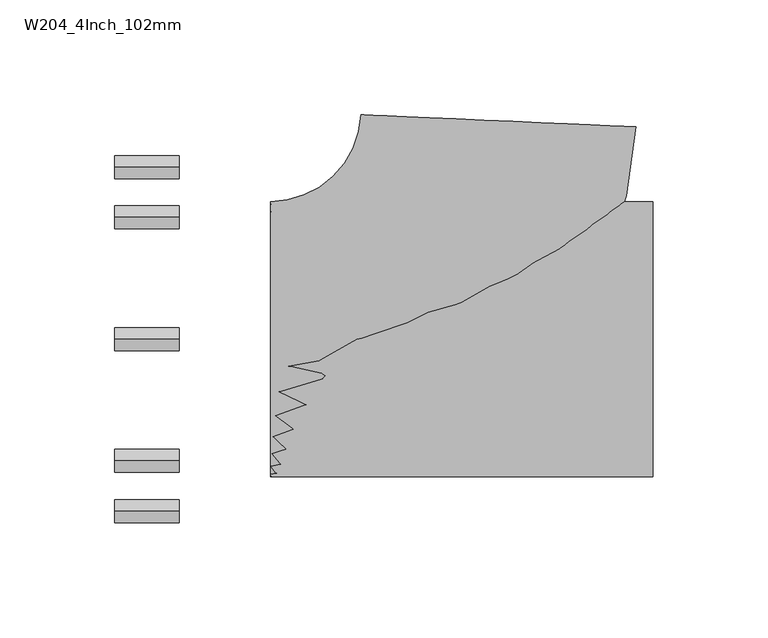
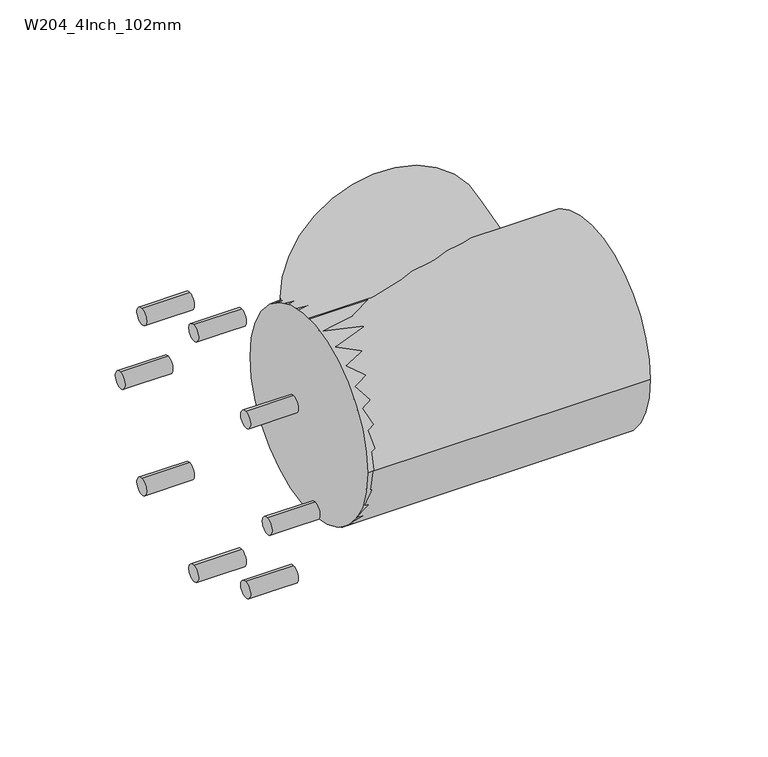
"""IFC4 building model written with IfcOpenShell, lengths in millimetres: pipe fitting geometry, Durapipe_PipeFitting_VulcatheneMechanical_92.5EqualSweepTee_W20 : W204_4Inch_102mm."""

from ifc_helpers import new_model, si_unit, point, frame, frame_2d, origin, place, context, project, spatial, circle_curve, ellipse_curve, trimmed, segment, composite_curve, outline, extrude, source, transform, mapped, element, save
from ifc_brep_helpers import plane_surface, cylinder_surface, revolved_surface, advanced_brep


def w204_4inch_102mm_a8dd6bf8(model_context):
    return source(origin(), model_context, "Body", "SolidModel", [
        extrude(outline(composite_curve([segment(trimmed(circle_curve(frame_2d((75.0, 0.0)), 5.0), [point((75.0, -5.0))], [point((75.0, 5.0))], False, "CARTESIAN"), True, "CONTINUOUS"), segment(trimmed(circle_curve(frame_2d((75.0, 0.0)), 5.0), [point((75.0, 5.0))], [point((75.0, -5.0))], False, "CARTESIAN"), True, "CONTINUOUS")], self_intersect=False)), frame((-163.1505284, 0.0, 0.0), z_axis=(1.0, 0.0, 0.0), x_axis=(0.0, 1.0, 0.0)), (0.0, 0.0, 1.0), 28.2),
        extrude(outline(composite_curve([segment(trimmed(circle_curve(frame_2d((53.0330086, 53.0330086)), 5.0), [point((53.0330086, 48.0330086))], [point((53.0330086, 58.0330086))], False, "CARTESIAN"), True, "CONTINUOUS"), segment(trimmed(circle_curve(frame_2d((53.0330086, 53.0330086)), 5.0), [point((53.0330086, 58.0330086))], [point((53.0330086, 48.0330086))], False, "CARTESIAN"), True, "CONTINUOUS")], self_intersect=False)), frame((-163.1505284, 0.0, 0.0), z_axis=(1.0, 0.0, 0.0), x_axis=(0.0, 1.0, 0.0)), (0.0, 0.0, 1.0), 28.2),
        extrude(outline(composite_curve([segment(trimmed(circle_curve(frame_2d((0.0, 75.0)), 5.0), [point((0.0, 70.0))], [point((0.0, 80.0))], False, "CARTESIAN"), True, "CONTINUOUS"), segment(trimmed(circle_curve(frame_2d((0.0, 75.0)), 5.0), [point((0.0, 80.0))], [point((0.0, 70.0))], False, "CARTESIAN"), True, "CONTINUOUS")], self_intersect=False)), frame((-163.1505284, 0.0, 0.0), z_axis=(1.0, 0.0, 0.0), x_axis=(0.0, 1.0, 0.0)), (0.0, 0.0, 1.0), 28.2),
        extrude(outline(composite_curve([segment(trimmed(circle_curve(frame_2d((-53.0330086, 53.0330086)), 5.0), [point((-53.0330086, 48.0330086))], [point((-53.0330086, 58.0330086))], False, "CARTESIAN"), True, "CONTINUOUS"), segment(trimmed(circle_curve(frame_2d((-53.0330086, 53.0330086)), 5.0), [point((-53.0330086, 58.0330086))], [point((-53.0330086, 48.0330086))], False, "CARTESIAN"), True, "CONTINUOUS")], self_intersect=False)), frame((-163.1505284, 0.0, 0.0), z_axis=(1.0, 0.0, 0.0), x_axis=(0.0, 1.0, 0.0)), (0.0, 0.0, 1.0), 28.2),
        extrude(outline(composite_curve([segment(trimmed(circle_curve(frame_2d((-75.0, 0.0)), 5.0), [point((-75.0, -5.0))], [point((-75.0, 5.0))], False, "CARTESIAN"), True, "CONTINUOUS"), segment(trimmed(circle_curve(frame_2d((-75.0, 0.0)), 5.0), [point((-75.0, 5.0))], [point((-75.0, -5.0))], False, "CARTESIAN"), True, "CONTINUOUS")], self_intersect=False)), frame((-163.1505284, 0.0, 0.0), z_axis=(1.0, 0.0, 0.0), x_axis=(0.0, 1.0, 0.0)), (0.0, 0.0, 1.0), 28.2),
        extrude(outline(composite_curve([segment(trimmed(circle_curve(frame_2d((-53.0330086, -53.0330086)), 5.0), [point((-53.0330086, -58.0330086))], [point((-53.0330086, -48.0330086))], False, "CARTESIAN"), True, "CONTINUOUS"), segment(trimmed(circle_curve(frame_2d((-53.0330086, -53.0330086)), 5.0), [point((-53.0330086, -48.0330086))], [point((-53.0330086, -58.0330086))], False, "CARTESIAN"), True, "CONTINUOUS")], self_intersect=False)), frame((-163.1505284, 0.0, 0.0), z_axis=(1.0, 0.0, 0.0), x_axis=(0.0, 1.0, 0.0)), (0.0, 0.0, 1.0), 28.2),
        extrude(outline(composite_curve([segment(trimmed(circle_curve(frame_2d((0.0, -75.0)), 5.0), [point((0.0, -80.0))], [point((0.0, -70.0))], False, "CARTESIAN"), True, "CONTINUOUS"), segment(trimmed(circle_curve(frame_2d((0.0, -75.0)), 5.0), [point((0.0, -70.0))], [point((0.0, -80.0))], False, "CARTESIAN"), True, "CONTINUOUS")], self_intersect=False)), frame((-163.1505284, 0.0, 0.0), z_axis=(1.0, 0.0, 0.0), x_axis=(0.0, 1.0, 0.0)), (0.0, 0.0, 1.0), 28.2),
        extrude(outline(composite_curve([segment(trimmed(circle_curve(frame_2d((53.0330086, -53.0330086)), 5.0), [point((53.0330086, -58.0330086))], [point((53.0330086, -48.0330086))], False, "CARTESIAN"), True, "CONTINUOUS"), segment(trimmed(circle_curve(frame_2d((53.0330086, -53.0330086)), 5.0), [point((53.0330086, -48.0330086))], [point((53.0330086, -58.0330086))], False, "CARTESIAN"), True, "CONTINUOUS")], self_intersect=False)), frame((-163.1505284, 0.0, 0.0), z_axis=(1.0, 0.0, 0.0), x_axis=(0.0, 1.0, 0.0)), (0.0, 0.0, 1.0), 28.2),
        advanced_brep(
        [(-95.2505284, -60.0, 0.0), (-95.2505284, 60.0, 0.0), (64.097663, 92.5427077, 0.0), (-55.7881236, 97.7770342, 0.0)],
        [
            (0, 1, circle_curve(frame((-95.2505284, 0.0, 0.0), z_axis=(-1.0, 0.0, 0.0), x_axis=(0.0, 1.0, 0.0)), 60.0)),
            (1, 0, circle_curve(frame((-95.2505284, 0.0, 0.0), z_axis=(-1.0, 0.0, 0.0), x_axis=(0.0, 1.0, 0.0)), 60.0)),
            (2, 3, circle_curve(frame((4.1547697, 95.159871, 0.0), z_axis=(0.0436193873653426, 0.9990482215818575, 0.0), x_axis=(-0.9990482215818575, 0.0436193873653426, 0.0)), 60.0)),
            (3, 2, circle_curve(frame((4.1547697, 95.159871, 0.0), z_axis=(0.0436193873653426, 0.9990482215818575, 0.0), x_axis=(-0.9990482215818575, 0.0436193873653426, 0.0)), 60.0)),
            (3, 1, circle_curve(frame((-95.2505284, 99.5, 0.0), z_axis=(0.0, 0.0, -1.0), x_axis=(0.0, -1.0, 0.0)), 39.5)),
            (0, 2, circle_curve(frame((-95.2505284, 99.5, 0.0), z_axis=(0.0, 0.0, 1.0), x_axis=(0.0, -1.0, 0.0)), 159.5)),
        ],
        [
            plane_surface(frame((-95.2505284, 0.0, 0.0), z_axis=(-1.0, 0.0, 0.0), x_axis=(0.0, 0.0, 1.0))),
            plane_surface(frame((4.1547697, 95.159871, 0.0), z_axis=(0.04361938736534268, 0.9990482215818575, 0.0), x_axis=(0.0, 0.0, 1.0))),
            revolved_surface(trimmed(ellipse_curve(frame((-95.2505284, 0.0, 0.0), z_axis=(-1.0, 0.0, 0.0), x_axis=(0.0, 1.0, 0.0)), 60.0, 60.0), [point((-95.2505284, -60.0, 0.0))], [point((-95.2505284, 60.0, 0.0))], True, "CARTESIAN"), (-95.2505284, 99.5, 0.0), (0.0, 0.0, 1.0)),
            revolved_surface(trimmed(ellipse_curve(frame((-95.2505284, 0.0, 0.0), z_axis=(-1.0, 0.0, 0.0), x_axis=(0.0, 1.0, 0.0)), 60.0, 60.0), [point((-95.2505284, 60.0, 0.0))], [point((-95.2505284, -60.0, 0.0))], True, "CARTESIAN"), (-95.2505284, 99.5, 0.0), (0.0, 0.0, 1.0)),
        ],
        [
            (0, [[1, 2]]),
            (1, [[3, 4]]),
            (2, [[5, -1, 6, -4]]),
            (3, [[-6, -2, -5, -3]]),
        ],
    ),
        advanced_brep(
        [(-95.2505284, -60.0, 0.0), (-95.2505284, 60.0, 0.0), (71.4494716, 60.0, 0.0), (71.4494716, -60.0, 0.0), (-95.2505284, 0.0, 0.0), (71.4494716, 0.0, 0.0)],
        [
            (0, 1, circle_curve(frame((-95.2505284, 0.0, 0.0), z_axis=(1.0, 0.0, 0.0), x_axis=(0.0, 1.0, 0.0)), 60.0)),
            (1, 2),
            (2, 3, circle_curve(frame((71.4494716, 0.0, 0.0), z_axis=(-1.0, 0.0, 0.0), x_axis=(0.0, 1.0, 0.0)), 60.0)),
            (3, 0),
            (1, 0, circle_curve(frame((-95.2505284, 0.0, 0.0), z_axis=(1.0, 0.0, 0.0), x_axis=(0.0, 1.0, 0.0)), 60.0)),
            (3, 2, circle_curve(frame((71.4494716, 0.0, 0.0), z_axis=(-1.0, 0.0, 0.0), x_axis=(0.0, 1.0, 0.0)), 60.0)),
            (4, 1),
            (0, 4),
            (2, 5),
            (5, 3),
        ],
        [
            cylinder_surface(frame((160.8494716, 0.0, 0.0), z_axis=(-1.0, 0.0, 0.0), x_axis=(0.0, 1.0, 0.0)), 60.0),
            plane_surface(frame((-95.2505284, 0.0, 0.0), z_axis=(-1.0, 0.0, 0.0), x_axis=(0.0, 1.0, 0.0))),
            plane_surface(frame((71.4494716, 0.0, 0.0), z_axis=(1.0, 0.0, 0.0), x_axis=(0.0, 1.0, 0.0))),
        ],
        [
            (0, [[1, 2, 3, 4]]),
            (0, [[5, -4, 6, -2]]),
            (1, [[7, -1, 8]]),
            (1, [[-8, -5, -7]]),
            (2, [[-3, 9, 10]]),
            (2, [[-6, -10, -9]]),
        ],
    ),
    ])


if __name__ == "__main__":
    model = new_model("IFC4")
    model_context = context("Model", 3, world=origin())
    ifc_project = project(units=[si_unit("LENGTHUNIT", "METRE", prefix="MILLI")], contexts=[model_context])
    site = spatial("IfcSite", under=ifc_project)
    building = spatial("IfcBuilding", under=site)
    placement = place(None, origin())
    w204_4inch_102mm_shape = w204_4inch_102mm_a8dd6bf8(model_context)
    element("IfcPipeFitting", 1, ObjectType="Durapipe_PipeFitting_VulcatheneMechanical_92.5EqualSweepTee_W20 : W204_4Inch_102mm", at=placement, inside=building, context=model_context, shape_type="MappedRepresentation", body=[
        mapped(w204_4inch_102mm_shape, transform((0.0, 0.0, 0.0), x_axis=(1.0, 0.0, 0.0), y_axis=(0.0, 1.0, 0.0), z_axis=(0.0, 0.0, 1.0))),
    ])
    save(model, "model.ifc")
